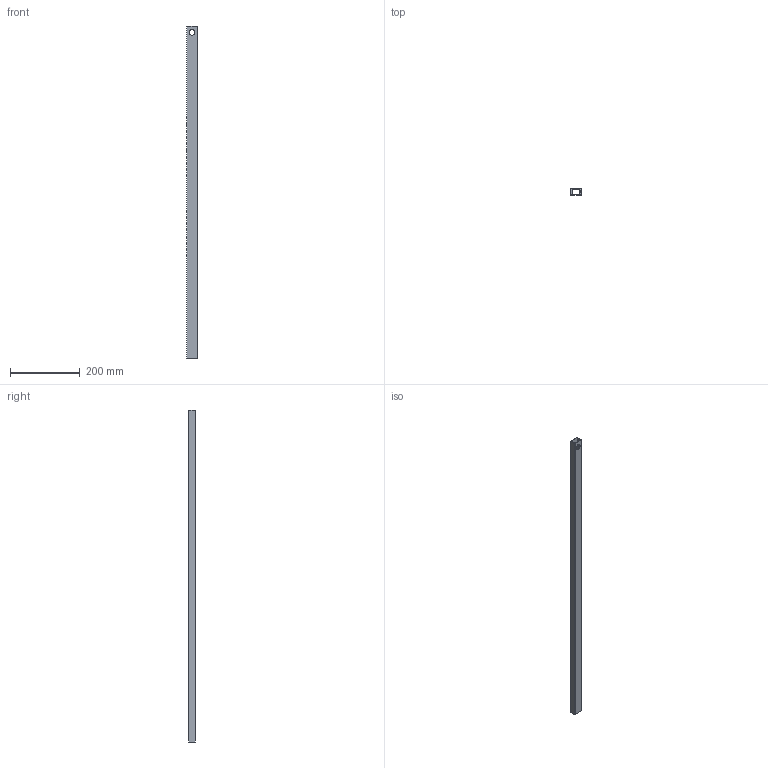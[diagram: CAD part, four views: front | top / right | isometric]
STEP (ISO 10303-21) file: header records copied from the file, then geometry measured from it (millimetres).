
FILE_DESCRIPTION(/* description */ (''),/* implementation_level */ '2;1');
FILE_NAME(/* name */ 'Profile',/* time_stamp */ '2026-08-18T16:11:32+02:00',/* author */ (''),/* organization */ (''),/* preprocessor_version */ 'ST-DEVELOPER v19.2',/* originating_system */ 'Rhino 8.34',/* authorisation */ '');
FILE_SCHEMA (('CONFIG_CONTROL_DESIGN'));
Length unit declared in the file: millimetre
Products named in the file (1): Document
Bounding box: 28.83 x 18 x 949.95 mm (x, y, z)
Volume: 191056.3 mm3; surface area: 168553.4 mm2
Topology: 1 solids, 1 shells, 38 faces, 108 edges, 72 vertices
Faces by surface type: cylinder 20, plane 18
Entity records: 1388 total; most frequent: CARTESIAN_POINT 380, ORIENTED_EDGE 216, DIRECTION 122, EDGE_CURVE 108, AXIS2_PLACEMENT_3D 80, VERTEX_POINT 72, EDGE_LOOP 60, B_SPLINE_CURVE_WITH_KNOTS 48
